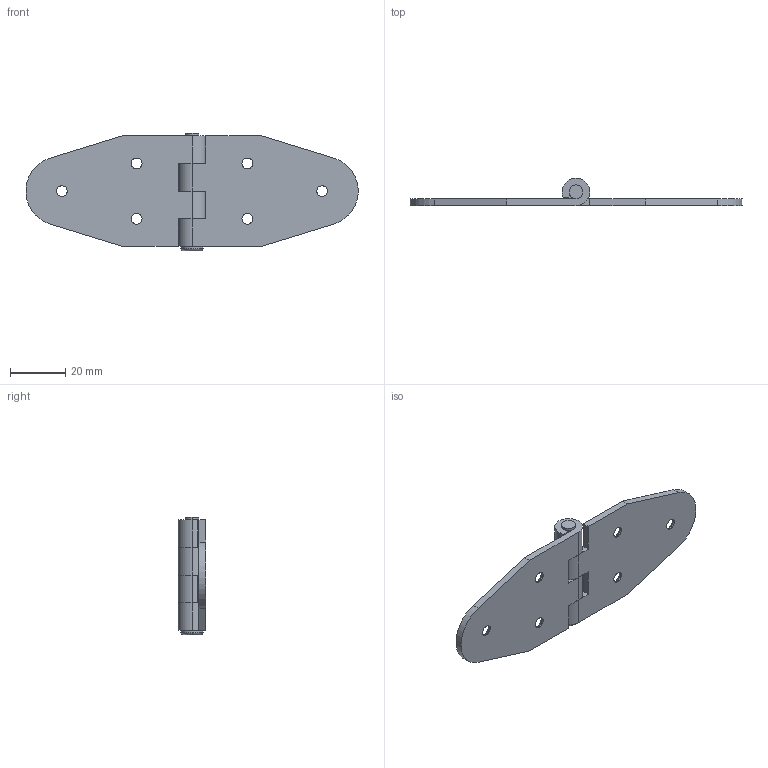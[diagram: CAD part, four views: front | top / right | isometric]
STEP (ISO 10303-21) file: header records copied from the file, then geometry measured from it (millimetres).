
FILE_DESCRIPTION (( 'STEP AP203' ), '1' );
FILE_NAME ('XG02-087-2.STEP', '2023-12-21T08:49:41', ( '' ), ( '' ), 'SwSTEP 2.0', 'SolidWorks 2020', '' );
FILE_SCHEMA (( 'CONFIG_CONTROL_DESIGN' ));
Length unit declared in the file: millimetre
Products named in the file (3): 錨璃1; XG02-087-2; 1
Assembly tree (3 placements, depth 2):
  XG02-087-2
    1  x2
    錨璃1
Bounding box: 119.91 x 10 x 42.5 mm (x, y, z)
Volume: 11662.1 mm3; surface area: 11126.5 mm2
Topology: 3 solids, 3 shells, 88 faces, 226 edges, 146 vertices
Faces by surface type: cylinder 44, plane 30, cone 12, torus 2
Entity records: 1853 total; most frequent: DIRECTION 296, CARTESIAN_POINT 260, ORIENTED_EDGE 248, EDGE_CURVE 124, AXIS2_PLACEMENT_3D 116, VERTEX_POINT 80, LINE 64, VECTOR 64
